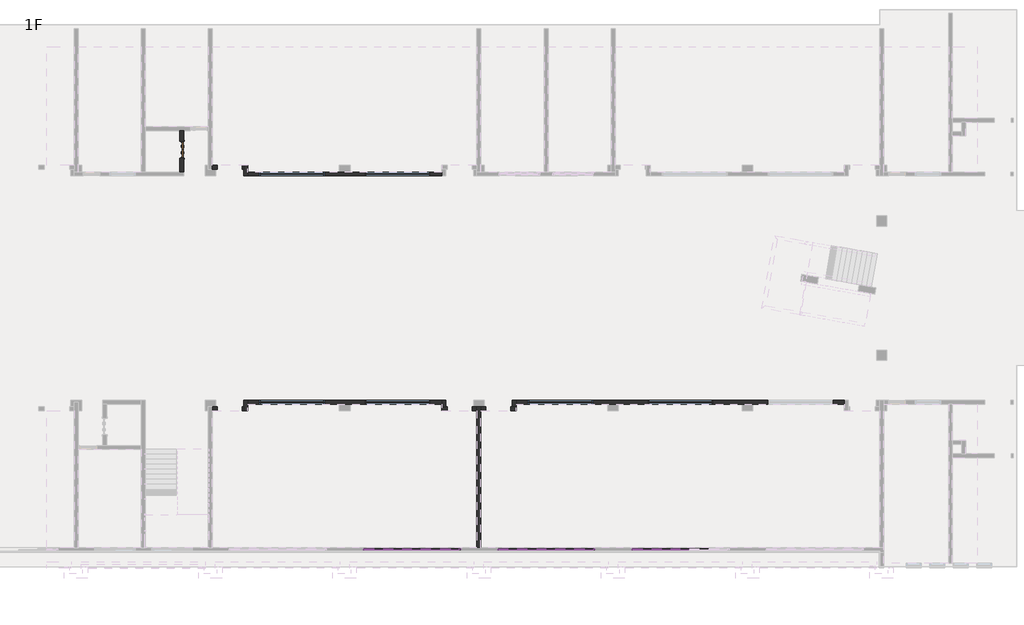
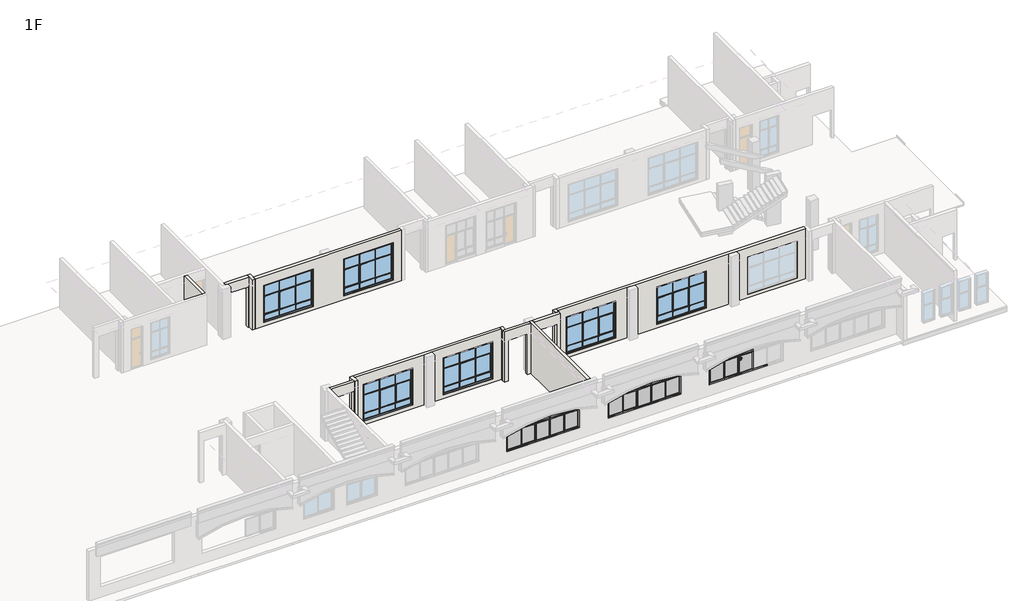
# One storey, part 3 of 16: 67 members, 21 plates, 13 walls, 6 windows, 1 door.
"""IFC4 building model written with IfcOpenShell, lengths in millimetres."""

from ifc_helpers import new_model, si_unit, frame, origin, place, context, project, spatial, polyline, outline, extrude, faceted_brep, transform, mapped, element, save
from components import door_7422e6be, member_7564be38, member_1f4d75dd, member_0b7842ad, member_163d5e45, member_ffafc35e, member_2b011958, member_9c26cac3, member_6c42befd, member_a374fdad, plate_f4dba16c, plate_1cc4df2b, plate_4fa5932a, plate_00f9c624, plate_18a10205, plate_942ffe46, lc5_lc5_223d64ff, lc5_lc5_9ec79463

model = new_model("IFC4")

# Units and contexts
model_context = context("Model", 3, world=origin())
ifc_project = project(units=[si_unit("LENGTHUNIT", "METRE", prefix="MILLI")], contexts=[model_context])

# Site, building, storey
site = spatial("IfcSite", under=ifc_project)
building = spatial("IfcBuilding", under=site)
storey = spatial("IfcBuildingStorey", under=building, Name="1F", Elevation=0.0)

# Door
placement = place(None, origin())
door_shape = door_7422e6be(model_context)
element("IfcDoor", 1, ObjectType="FM(丙）1 : FM(丙）1", at=placement, inside=storey, context=model_context, shape_type="MappedRepresentation", body=[
    mapped(door_shape, transform((33300.0000031, 24849.6954632, 0.0), x_axis=(0.0, 1.0, 0.0), y_axis=(-1.0, 0.0, 0.0), z_axis=(0.0, 0.0, 1.0))),
])

# Members
member_shape = member_7564be38(model_context)
element("IfcMember", 2, ObjectType="矩形竖梃 : 教学楼 – 矩形竖梃 – 100x150mm", at=placement, inside=storey, context=model_context, shape_type="MappedRepresentation", body=[
    mapped(member_shape, transform((49909.9999978, 1000.0, 3400.0), x_axis=(0.0, 0.0, 1.0), y_axis=(0.0, -1.0, 0.0), z_axis=(1.0, 0.0, 0.0))),
])
element("IfcMember", 3, ObjectType="矩形竖梃 : 教学楼 – 矩形竖梃 – 100x150mm", at=placement, inside=storey, context=model_context, shape_type="MappedRepresentation", body=[
    mapped(member_shape, transform((57909.9999985, 1000.0, 3400.0), x_axis=(0.0, 0.0, 1.0), y_axis=(0.0, -1.0, 0.0), z_axis=(1.0, 0.0, 0.0))),
])
element("IfcMember", 4, ObjectType="矩形竖梃 : 教学楼 – 矩形竖梃 – 100x150mm", at=placement, inside=storey, context=model_context, shape_type="MappedRepresentation", body=[
    mapped(member_shape, transform((44109.9999978, 1000.0, 900.0), x_axis=(0.0, 0.0, -1.0), y_axis=(0.0, -1.0, 0.0), z_axis=(-1.0, 0.0, 0.0))),
])
element("IfcMember", 5, ObjectType="矩形竖梃 : 教学楼 – 矩形竖梃 – 100x150mm", at=placement, inside=storey, context=model_context, shape_type="MappedRepresentation", body=[
    mapped(member_shape, transform((52109.9999985, 1000.0, 900.0), x_axis=(0.0, 0.0, -1.0), y_axis=(0.0, -1.0, 0.0), z_axis=(-1.0, 0.0, 0.0))),
])
element("IfcMember", 6, ObjectType="矩形竖梃 : 教学楼 – 矩形竖梃 – 100x150mm", at=placement, inside=storey, context=model_context, shape_type="MappedRepresentation", body=[
    mapped(member_shape, transform((60109.9999985, 1000.0, 900.0), x_axis=(0.0, 0.0, -1.0), y_axis=(0.0, -1.0, 0.0), z_axis=(-1.0, 0.0, 0.0))),
])
member_2_shape = member_1f4d75dd(model_context)
element("IfcMember", 7, ObjectType="矩形竖梃 : 教学楼 – 矩形竖梃 – 50x150mm", at=placement, inside=storey, context=model_context, shape_type="MappedRepresentation", body=[
    mapped(member_2_shape, transform((46459.9999978, 1000.0, 1000.0), x_axis=(1.0, 0.0, 0.0), y_axis=(0.0, -1.0, 0.0), z_axis=(0.0, 0.0, -1.0))),
])
element("IfcMember", 8, ObjectType="矩形竖梃 : 教学楼 – 矩形竖梃 – 50x150mm", at=placement, inside=storey, context=model_context, shape_type="MappedRepresentation", body=[
    mapped(member_2_shape, transform((47559.9999978, 1000.0, 1000.0), x_axis=(1.0, 0.0, 0.0), y_axis=(0.0, -1.0, 0.0), z_axis=(0.0, 0.0, -1.0))),
])
element("IfcMember", 9, ObjectType="矩形竖梃 : 教学楼 – 矩形竖梃 – 50x150mm", at=placement, inside=storey, context=model_context, shape_type="MappedRepresentation", body=[
    mapped(member_2_shape, transform((54459.9999985, 1000.0, 1000.0), x_axis=(1.0, 0.0, 0.0), y_axis=(0.0, -1.0, 0.0), z_axis=(0.0, 0.0, -1.0))),
])
element("IfcMember", 10, ObjectType="矩形竖梃 : 教学楼 – 矩形竖梃 – 50x150mm", at=placement, inside=storey, context=model_context, shape_type="MappedRepresentation", body=[
    mapped(member_2_shape, transform((55559.9999985, 1000.0, 1000.0), x_axis=(1.0, 0.0, 0.0), y_axis=(0.0, -1.0, 0.0), z_axis=(0.0, 0.0, -1.0))),
])
element("IfcMember", 11, ObjectType="矩形竖梃 : 教学楼 – 矩形竖梃 – 50x150mm", at=placement, inside=storey, context=model_context, shape_type="MappedRepresentation", body=[
    mapped(member_2_shape, transform((62459.9999985, 1000.0, 1000.0), x_axis=(1.0, 0.0, 0.0), y_axis=(0.0, -1.0, 0.0), z_axis=(0.0, 0.0, -1.0))),
])
element("IfcMember", 12, ObjectType="矩形竖梃 : 教学楼 – 矩形竖梃 – 50x150mm", at=placement, inside=storey, context=model_context, shape_type="MappedRepresentation", body=[
    mapped(member_2_shape, transform((63559.9999985, 1000.0, 1000.0), x_axis=(1.0, 0.0, 0.0), y_axis=(0.0, -1.0, 0.0), z_axis=(0.0, 0.0, -1.0))),
])
member_3_shape = member_0b7842ad(model_context)
element("IfcMember", 13, ObjectType="矩形竖梃 : 教学楼 – 矩形竖梃 – 50x150mm", at=placement, inside=storey, context=model_context, shape_type="MappedRepresentation", body=[
    mapped(member_3_shape, transform((45309.9999978, 1000.0, 2450.0), x_axis=(0.0, 0.0, 1.0), y_axis=(0.0, -1.0, 0.0), z_axis=(1.0, 0.0, 0.0))),
])
element("IfcMember", 14, ObjectType="矩形竖梃 : 教学楼 – 矩形竖梃 – 50x150mm", at=placement, inside=storey, context=model_context, shape_type="MappedRepresentation", body=[
    mapped(member_3_shape, transform((53309.9999985, 1000.0, 2450.0), x_axis=(0.0, 0.0, 1.0), y_axis=(0.0, -1.0, 0.0), z_axis=(1.0, 0.0, 0.0))),
])
element("IfcMember", 15, ObjectType="矩形竖梃 : 教学楼 – 矩形竖梃 – 50x150mm", at=placement, inside=storey, context=model_context, shape_type="MappedRepresentation", body=[
    mapped(member_3_shape, transform((61309.9999985, 1000.0, 2450.0), x_axis=(0.0, 0.0, 1.0), y_axis=(0.0, -1.0, 0.0), z_axis=(1.0, 0.0, 0.0))),
])
member_4_shape = member_163d5e45(model_context)
element("IfcMember", 16, ObjectType="矩形竖梃 : 教学楼 – 矩形竖梃 – 50x150mm", at=placement, inside=storey, context=model_context, shape_type="MappedRepresentation", body=[
    mapped(member_4_shape, transform((46459.9999978, 1000.0, 2450.0), x_axis=(0.0, 0.0, 1.0), y_axis=(0.0, -1.0, 0.0), z_axis=(1.0, 0.0, 0.0))),
])
element("IfcMember", 17, ObjectType="矩形竖梃 : 教学楼 – 矩形竖梃 – 50x150mm", at=placement, inside=storey, context=model_context, shape_type="MappedRepresentation", body=[
    mapped(member_4_shape, transform((48709.9999978, 1000.0, 2450.0), x_axis=(0.0, 0.0, 1.0), y_axis=(0.0, -1.0, 0.0), z_axis=(1.0, 0.0, 0.0))),
])
element("IfcMember", 18, ObjectType="矩形竖梃 : 教学楼 – 矩形竖梃 – 50x150mm", at=placement, inside=storey, context=model_context, shape_type="MappedRepresentation", body=[
    mapped(member_4_shape, transform((54459.9999985, 1000.0, 2450.0), x_axis=(0.0, 0.0, 1.0), y_axis=(0.0, -1.0, 0.0), z_axis=(1.0, 0.0, 0.0))),
])
element("IfcMember", 19, ObjectType="矩形竖梃 : 教学楼 – 矩形竖梃 – 50x150mm", at=placement, inside=storey, context=model_context, shape_type="MappedRepresentation", body=[
    mapped(member_4_shape, transform((56709.9999985, 1000.0, 2450.0), x_axis=(0.0, 0.0, 1.0), y_axis=(0.0, -1.0, 0.0), z_axis=(1.0, 0.0, 0.0))),
])
element("IfcMember", 20, ObjectType="矩形竖梃 : 教学楼 – 矩形竖梃 – 50x150mm", at=placement, inside=storey, context=model_context, shape_type="MappedRepresentation", body=[
    mapped(member_4_shape, transform((62459.9999985, 1000.0, 2450.0), x_axis=(0.0, 0.0, 1.0), y_axis=(0.0, -1.0, 0.0), z_axis=(1.0, 0.0, 0.0))),
])
element("IfcMember", 21, ObjectType="矩形竖梃 : 教学楼 – 矩形竖梃 – 50x150mm", at=placement, inside=storey, context=model_context, shape_type="MappedRepresentation", body=[
    mapped(member_3_shape, transform((47559.9999978, 1000.0, 2450.0), x_axis=(0.0, 0.0, 1.0), y_axis=(0.0, -1.0, 0.0), z_axis=(1.0, 0.0, 0.0))),
])
element("IfcMember", 22, ObjectType="矩形竖梃 : 教学楼 – 矩形竖梃 – 50x150mm", at=placement, inside=storey, context=model_context, shape_type="MappedRepresentation", body=[
    mapped(member_3_shape, transform((55559.9999985, 1000.0, 2450.0), x_axis=(0.0, 0.0, 1.0), y_axis=(0.0, -1.0, 0.0), z_axis=(1.0, 0.0, 0.0))),
])
element("IfcMember", 23, ObjectType="矩形竖梃 : 教学楼 – 矩形竖梃 – 50x150mm", at=placement, inside=storey, context=model_context, shape_type="MappedRepresentation", body=[
    mapped(member_3_shape, transform((63559.9999985, 1000.0, 2450.0), x_axis=(0.0, 0.0, 1.0), y_axis=(0.0, -1.0, 0.0), z_axis=(1.0, 0.0, 0.0))),
])
element("IfcMember", 24, ObjectType="矩形竖梃 : 教学楼 – 矩形竖梃 – 50x150mm", at=placement, inside=storey, context=model_context, shape_type="MappedRepresentation", body=[
    mapped(member_3_shape, transform((49809.9999978, 1000.0, 2450.0), x_axis=(0.0, 0.0, 1.0), y_axis=(0.0, -1.0, 0.0), z_axis=(1.0, 0.0, 0.0))),
])
element("IfcMember", 25, ObjectType="矩形竖梃 : 教学楼 – 矩形竖梃 – 50x150mm", at=placement, inside=storey, context=model_context, shape_type="MappedRepresentation", body=[
    mapped(member_3_shape, transform((57809.9999985, 1000.0, 2450.0), x_axis=(0.0, 0.0, 1.0), y_axis=(0.0, -1.0, 0.0), z_axis=(1.0, 0.0, 0.0))),
])
member_5_shape = member_ffafc35e(model_context)
element("IfcMember", 26, ObjectType="矩形竖梃 : 教学楼 – 矩形竖梃 – 100x150mm", at=placement, inside=storey, context=model_context, shape_type="MappedRepresentation", body=[
    mapped(member_5_shape, transform((45309.9999978, 1000.0, 900.0), x_axis=(0.0, 0.0, -1.0), y_axis=(0.0, -1.0, 0.0), z_axis=(-1.0, 0.0, 0.0))),
])
element("IfcMember", 27, ObjectType="矩形竖梃 : 教学楼 – 矩形竖梃 – 100x150mm", at=placement, inside=storey, context=model_context, shape_type="MappedRepresentation", body=[
    mapped(member_5_shape, transform((53309.9999985, 1000.0, 900.0), x_axis=(0.0, 0.0, -1.0), y_axis=(0.0, -1.0, 0.0), z_axis=(-1.0, 0.0, 0.0))),
])
element("IfcMember", 28, ObjectType="矩形竖梃 : 教学楼 – 矩形竖梃 – 100x150mm", at=placement, inside=storey, context=model_context, shape_type="MappedRepresentation", body=[
    mapped(member_5_shape, transform((61309.9999985, 1000.0, 900.0), x_axis=(0.0, 0.0, -1.0), y_axis=(0.0, -1.0, 0.0), z_axis=(-1.0, 0.0, 0.0))),
])
member_6_shape = member_2b011958(model_context)
element("IfcMember", 29, ObjectType="矩形竖梃 : 教学楼 – 矩形竖梃 – 100x150mm", at=placement, inside=storey, context=model_context, shape_type="MappedRepresentation", body=[
    mapped(member_6_shape, transform((46459.9999978, 1000.0, 900.0), x_axis=(0.0, 0.0, -1.0), y_axis=(0.0, -1.0, 0.0), z_axis=(-1.0, 0.0, 0.0))),
])
element("IfcMember", 30, ObjectType="矩形竖梃 : 教学楼 – 矩形竖梃 – 100x150mm", at=placement, inside=storey, context=model_context, shape_type="MappedRepresentation", body=[
    mapped(member_6_shape, transform((54459.9999985, 1000.0, 900.0), x_axis=(0.0, 0.0, -1.0), y_axis=(0.0, -1.0, 0.0), z_axis=(-1.0, 0.0, 0.0))),
])
element("IfcMember", 31, ObjectType="矩形竖梃 : 教学楼 – 矩形竖梃 – 100x150mm", at=placement, inside=storey, context=model_context, shape_type="MappedRepresentation", body=[
    mapped(member_6_shape, transform((62459.9999985, 1000.0, 900.0), x_axis=(0.0, 0.0, -1.0), y_axis=(0.0, -1.0, 0.0), z_axis=(-1.0, 0.0, 0.0))),
])
element("IfcMember", 32, ObjectType="矩形竖梃 : 教学楼 – 矩形竖梃 – 100x150mm", at=placement, inside=storey, context=model_context, shape_type="MappedRepresentation", body=[
    mapped(member_5_shape, transform((47559.9999978, 1000.0, 900.0), x_axis=(0.0, 0.0, -1.0), y_axis=(0.0, -1.0, 0.0), z_axis=(-1.0, 0.0, 0.0))),
])
element("IfcMember", 33, ObjectType="矩形竖梃 : 教学楼 – 矩形竖梃 – 100x150mm", at=placement, inside=storey, context=model_context, shape_type="MappedRepresentation", body=[
    mapped(member_5_shape, transform((55559.9999985, 1000.0, 900.0), x_axis=(0.0, 0.0, -1.0), y_axis=(0.0, -1.0, 0.0), z_axis=(-1.0, 0.0, 0.0))),
])
element("IfcMember", 34, ObjectType="矩形竖梃 : 教学楼 – 矩形竖梃 – 100x150mm", at=placement, inside=storey, context=model_context, shape_type="MappedRepresentation", body=[
    mapped(member_5_shape, transform((63559.9999985, 1000.0, 900.0), x_axis=(0.0, 0.0, -1.0), y_axis=(0.0, -1.0, 0.0), z_axis=(-1.0, 0.0, 0.0))),
])
element("IfcMember", 35, ObjectType="矩形竖梃 : 教学楼 – 矩形竖梃 – 100x150mm", at=placement, inside=storey, context=model_context, shape_type="MappedRepresentation", body=[
    mapped(member_shape, transform((48709.9999978, 1000.0, 900.0), x_axis=(0.0, 0.0, -1.0), y_axis=(0.0, -1.0, 0.0), z_axis=(-1.0, 0.0, 0.0))),
])
element("IfcMember", 36, ObjectType="矩形竖梃 : 教学楼 – 矩形竖梃 – 100x150mm", at=placement, inside=storey, context=model_context, shape_type="MappedRepresentation", body=[
    mapped(member_shape, transform((56709.9999985, 1000.0, 900.0), x_axis=(0.0, 0.0, -1.0), y_axis=(0.0, -1.0, 0.0), z_axis=(-1.0, 0.0, 0.0))),
])
element("IfcMember", 37, ObjectType="矩形竖梃 : 教学楼 – 矩形竖梃 – 100x150mm", at=placement, inside=storey, context=model_context, shape_type="MappedRepresentation", body=[
    mapped(member_shape, transform((45309.9999978, 1000.0, 3400.0), x_axis=(0.0, 0.0, 1.0), y_axis=(0.0, -1.0, 0.0), z_axis=(1.0, 0.0, 0.0))),
])
element("IfcMember", 38, ObjectType="矩形竖梃 : 教学楼 – 矩形竖梃 – 100x150mm", at=placement, inside=storey, context=model_context, shape_type="MappedRepresentation", body=[
    mapped(member_shape, transform((53309.9999985, 1000.0, 3400.0), x_axis=(0.0, 0.0, 1.0), y_axis=(0.0, -1.0, 0.0), z_axis=(1.0, 0.0, 0.0))),
])
element("IfcMember", 39, ObjectType="矩形竖梃 : 教学楼 – 矩形竖梃 – 100x150mm", at=placement, inside=storey, context=model_context, shape_type="MappedRepresentation", body=[
    mapped(member_shape, transform((61309.9999985, 1000.0, 3400.0), x_axis=(0.0, 0.0, 1.0), y_axis=(0.0, -1.0, 0.0), z_axis=(1.0, 0.0, 0.0))),
])
element("IfcMember", 40, ObjectType="矩形竖梃 : 教学楼 – 矩形竖梃 – 100x150mm", at=placement, inside=storey, context=model_context, shape_type="MappedRepresentation", body=[
    mapped(member_5_shape, transform((46459.9999978, 1000.0, 3400.0), x_axis=(0.0, 0.0, 1.0), y_axis=(0.0, -1.0, 0.0), z_axis=(1.0, 0.0, 0.0))),
])
element("IfcMember", 41, ObjectType="矩形竖梃 : 教学楼 – 矩形竖梃 – 100x150mm", at=placement, inside=storey, context=model_context, shape_type="MappedRepresentation", body=[
    mapped(member_5_shape, transform((48709.9999978, 1000.0, 3400.0), x_axis=(0.0, 0.0, 1.0), y_axis=(0.0, -1.0, 0.0), z_axis=(1.0, 0.0, 0.0))),
])
element("IfcMember", 42, ObjectType="矩形竖梃 : 教学楼 – 矩形竖梃 – 100x150mm", at=placement, inside=storey, context=model_context, shape_type="MappedRepresentation", body=[
    mapped(member_5_shape, transform((54459.9999985, 1000.0, 3400.0), x_axis=(0.0, 0.0, 1.0), y_axis=(0.0, -1.0, 0.0), z_axis=(1.0, 0.0, 0.0))),
])
element("IfcMember", 43, ObjectType="矩形竖梃 : 教学楼 – 矩形竖梃 – 100x150mm", at=placement, inside=storey, context=model_context, shape_type="MappedRepresentation", body=[
    mapped(member_5_shape, transform((56709.9999985, 1000.0, 3400.0), x_axis=(0.0, 0.0, 1.0), y_axis=(0.0, -1.0, 0.0), z_axis=(1.0, 0.0, 0.0))),
])
element("IfcMember", 44, ObjectType="矩形竖梃 : 教学楼 – 矩形竖梃 – 100x150mm", at=placement, inside=storey, context=model_context, shape_type="MappedRepresentation", body=[
    mapped(member_5_shape, transform((62459.9999985, 1000.0, 3400.0), x_axis=(0.0, 0.0, 1.0), y_axis=(0.0, -1.0, 0.0), z_axis=(1.0, 0.0, 0.0))),
])
element("IfcMember", 45, ObjectType="矩形竖梃 : 教学楼 – 矩形竖梃 – 100x150mm", at=placement, inside=storey, context=model_context, shape_type="MappedRepresentation", body=[
    mapped(member_6_shape, transform((47559.9999978, 1000.0, 3400.0), x_axis=(0.0, 0.0, 1.0), y_axis=(0.0, -1.0, 0.0), z_axis=(1.0, 0.0, 0.0))),
])
element("IfcMember", 46, ObjectType="矩形竖梃 : 教学楼 – 矩形竖梃 – 100x150mm", at=placement, inside=storey, context=model_context, shape_type="MappedRepresentation", body=[
    mapped(member_6_shape, transform((55559.9999985, 1000.0, 3400.0), x_axis=(0.0, 0.0, 1.0), y_axis=(0.0, -1.0, 0.0), z_axis=(1.0, 0.0, 0.0))),
])
element("IfcMember", 47, ObjectType="矩形竖梃 : 教学楼 – 矩形竖梃 – 100x150mm", at=placement, inside=storey, context=model_context, shape_type="MappedRepresentation", body=[
    mapped(member_6_shape, transform((63559.9999985, 1000.0, 3400.0), x_axis=(0.0, 0.0, 1.0), y_axis=(0.0, -1.0, 0.0), z_axis=(1.0, 0.0, 0.0))),
])
member_7_shape = member_9c26cac3(model_context)
element("IfcMember", 48, ObjectType="矩形竖梃 : 教学楼 – 矩形竖梃 – 50x150mm", at=placement, inside=storey, context=model_context, shape_type="MappedRepresentation", body=[
    mapped(member_7_shape, transform((45309.9999978, 1000.0, 2475.0), x_axis=(1.0, 0.0, 0.0), y_axis=(0.0, -1.0, 0.0), z_axis=(0.0, 0.0, -1.0))),
])
element("IfcMember", 49, ObjectType="矩形竖梃 : 教学楼 – 矩形竖梃 – 50x150mm", at=placement, inside=storey, context=model_context, shape_type="MappedRepresentation", body=[
    mapped(member_7_shape, transform((46459.9999978, 1000.0, 2475.0), x_axis=(1.0, 0.0, 0.0), y_axis=(0.0, -1.0, 0.0), z_axis=(0.0, 0.0, -1.0))),
])
element("IfcMember", 50, ObjectType="矩形竖梃 : 教学楼 – 矩形竖梃 – 50x150mm", at=placement, inside=storey, context=model_context, shape_type="MappedRepresentation", body=[
    mapped(member_7_shape, transform((47559.9999978, 1000.0, 2475.0), x_axis=(1.0, 0.0, 0.0), y_axis=(0.0, -1.0, 0.0), z_axis=(0.0, 0.0, -1.0))),
])
element("IfcMember", 51, ObjectType="矩形竖梃 : 教学楼 – 矩形竖梃 – 50x150mm", at=placement, inside=storey, context=model_context, shape_type="MappedRepresentation", body=[
    mapped(member_7_shape, transform((48709.9999978, 1000.0, 2475.0), x_axis=(1.0, 0.0, 0.0), y_axis=(0.0, -1.0, 0.0), z_axis=(0.0, 0.0, -1.0))),
])
element("IfcMember", 52, ObjectType="矩形竖梃 : 教学楼 – 矩形竖梃 – 50x150mm", at=placement, inside=storey, context=model_context, shape_type="MappedRepresentation", body=[
    mapped(member_7_shape, transform((53309.9999985, 1000.0, 2475.0), x_axis=(1.0, 0.0, 0.0), y_axis=(0.0, -1.0, 0.0), z_axis=(0.0, 0.0, -1.0))),
])
element("IfcMember", 53, ObjectType="矩形竖梃 : 教学楼 – 矩形竖梃 – 50x150mm", at=placement, inside=storey, context=model_context, shape_type="MappedRepresentation", body=[
    mapped(member_7_shape, transform((54459.9999985, 1000.0, 2475.0), x_axis=(1.0, 0.0, 0.0), y_axis=(0.0, -1.0, 0.0), z_axis=(0.0, 0.0, -1.0))),
])
element("IfcMember", 54, ObjectType="矩形竖梃 : 教学楼 – 矩形竖梃 – 50x150mm", at=placement, inside=storey, context=model_context, shape_type="MappedRepresentation", body=[
    mapped(member_7_shape, transform((55559.9999985, 1000.0, 2475.0), x_axis=(1.0, 0.0, 0.0), y_axis=(0.0, -1.0, 0.0), z_axis=(0.0, 0.0, -1.0))),
])
element("IfcMember", 55, ObjectType="矩形竖梃 : 教学楼 – 矩形竖梃 – 50x150mm", at=placement, inside=storey, context=model_context, shape_type="MappedRepresentation", body=[
    mapped(member_7_shape, transform((56709.9999985, 1000.0, 2475.0), x_axis=(1.0, 0.0, 0.0), y_axis=(0.0, -1.0, 0.0), z_axis=(0.0, 0.0, -1.0))),
])
element("IfcMember", 56, ObjectType="矩形竖梃 : 教学楼 – 矩形竖梃 – 50x150mm", at=placement, inside=storey, context=model_context, shape_type="MappedRepresentation", body=[
    mapped(member_7_shape, transform((61309.9999985, 1000.0, 2475.0), x_axis=(1.0, 0.0, 0.0), y_axis=(0.0, -1.0, 0.0), z_axis=(0.0, 0.0, -1.0))),
])
element("IfcMember", 57, ObjectType="矩形竖梃 : 教学楼 – 矩形竖梃 – 50x150mm", at=placement, inside=storey, context=model_context, shape_type="MappedRepresentation", body=[
    mapped(member_7_shape, transform((62459.9999985, 1000.0, 2475.0), x_axis=(1.0, 0.0, 0.0), y_axis=(0.0, -1.0, 0.0), z_axis=(0.0, 0.0, -1.0))),
])
element("IfcMember", 58, ObjectType="矩形竖梃 : 教学楼 – 矩形竖梃 – 50x150mm", at=placement, inside=storey, context=model_context, shape_type="MappedRepresentation", body=[
    mapped(member_7_shape, transform((63559.9999985, 1000.0, 2475.0), x_axis=(1.0, 0.0, 0.0), y_axis=(0.0, -1.0, 0.0), z_axis=(0.0, 0.0, -1.0))),
])
member_8_shape = member_6c42befd(model_context)
element("IfcMember", 59, ObjectType="矩形竖梃 : 教学楼 – 矩形竖梃 – 100x150mm", at=placement, inside=storey, context=model_context, shape_type="MappedRepresentation", body=[
    mapped(member_8_shape, transform((44109.9999978, 1000.0, 3300.0), x_axis=(-1.0, 0.0, 0.0), y_axis=(0.0, -1.0, 0.0), z_axis=(0.0, 0.0, 1.0))),
])
element("IfcMember", 60, ObjectType="矩形竖梃 : 教学楼 – 矩形竖梃 – 100x150mm", at=placement, inside=storey, context=model_context, shape_type="MappedRepresentation", body=[
    mapped(member_8_shape, transform((52109.9999985, 1000.0, 3300.0), x_axis=(-1.0, 0.0, 0.0), y_axis=(0.0, -1.0, 0.0), z_axis=(0.0, 0.0, 1.0))),
])
element("IfcMember", 61, ObjectType="矩形竖梃 : 教学楼 – 矩形竖梃 – 100x150mm", at=placement, inside=storey, context=model_context, shape_type="MappedRepresentation", body=[
    mapped(member_8_shape, transform((60109.9999985, 1000.0, 3300.0), x_axis=(-1.0, 0.0, 0.0), y_axis=(0.0, -1.0, 0.0), z_axis=(0.0, 0.0, 1.0))),
])
member_9_shape = member_a374fdad(model_context)
element("IfcMember", 62, ObjectType="矩形竖梃 : 教学楼 – 矩形竖梃 – 100x150mm", at=placement, inside=storey, context=model_context, shape_type="MappedRepresentation", body=[
    mapped(member_9_shape, transform((49909.9999978, 1000.0, 1000.0), x_axis=(1.0, 0.0, 0.0), y_axis=(0.0, -1.0, 0.0), z_axis=(0.0, 0.0, -1.0))),
])
element("IfcMember", 63, ObjectType="矩形竖梃 : 教学楼 – 矩形竖梃 – 100x150mm", at=placement, inside=storey, context=model_context, shape_type="MappedRepresentation", body=[
    mapped(member_9_shape, transform((57909.9999985, 1000.0, 1000.0), x_axis=(1.0, 0.0, 0.0), y_axis=(0.0, -1.0, 0.0), z_axis=(0.0, 0.0, -1.0))),
])
element("IfcMember", 64, ObjectType="矩形竖梃 : 教学楼 – 矩形竖梃 – 100x150mm", at=placement, inside=storey, context=model_context, shape_type="MappedRepresentation", body=[
    mapped(member_8_shape, transform((49909.9999978, 1000.0, 2450.0), x_axis=(1.0, 0.0, 0.0), y_axis=(0.0, -1.0, 0.0), z_axis=(0.0, 0.0, -1.0))),
])
element("IfcMember", 65, ObjectType="矩形竖梃 : 教学楼 – 矩形竖梃 – 100x150mm", at=placement, inside=storey, context=model_context, shape_type="MappedRepresentation", body=[
    mapped(member_8_shape, transform((57909.9999985, 1000.0, 2450.0), x_axis=(1.0, 0.0, 0.0), y_axis=(0.0, -1.0, 0.0), z_axis=(0.0, 0.0, -1.0))),
])
element("IfcMember", 66, ObjectType="矩形竖梃 : 教学楼 – 矩形竖梃 – 100x150mm", at=placement, inside=storey, context=model_context, shape_type="MappedRepresentation", body=[
    mapped(member_9_shape, transform((44109.9999978, 1000.0, 2450.0), x_axis=(-1.0, 0.0, 0.0), y_axis=(0.0, -1.0, 0.0), z_axis=(0.0, 0.0, 1.0))),
])
element("IfcMember", 67, ObjectType="矩形竖梃 : 教学楼 – 矩形竖梃 – 100x150mm", at=placement, inside=storey, context=model_context, shape_type="MappedRepresentation", body=[
    mapped(member_9_shape, transform((52109.9999985, 1000.0, 2450.0), x_axis=(-1.0, 0.0, 0.0), y_axis=(0.0, -1.0, 0.0), z_axis=(0.0, 0.0, 1.0))),
])
element("IfcMember", 68, ObjectType="矩形竖梃 : 教学楼 – 矩形竖梃 – 100x150mm", at=placement, inside=storey, context=model_context, shape_type="MappedRepresentation", body=[
    mapped(member_9_shape, transform((60109.9999985, 1000.0, 2450.0), x_axis=(-1.0, 0.0, 0.0), y_axis=(0.0, -1.0, 0.0), z_axis=(0.0, 0.0, 1.0))),
])

# Plates
plate_shape = plate_f4dba16c(model_context)
element("IfcPlate", 69, ObjectType="系统嵌板 : 玻璃", at=placement, inside=storey, context=model_context, shape_type="MappedRepresentation", body=[
    mapped(plate_shape, transform((47009.9999978, 1000.0, 1000.0), x_axis=(1.0, 0.0, 0.0), y_axis=(0.0, 1.0, 0.0), z_axis=(0.0, 0.0, 1.0))),
])
element("IfcPlate", 70, ObjectType="系统嵌板 : 玻璃", at=placement, inside=storey, context=model_context, shape_type="MappedRepresentation", body=[
    mapped(plate_shape, transform((55009.9999985, 1000.0, 1000.0), x_axis=(1.0, 0.0, 0.0), y_axis=(0.0, 1.0, 0.0), z_axis=(0.0, 0.0, 1.0))),
])
plate_2_shape = plate_1cc4df2b(model_context)
element("IfcPlate", 71, ObjectType="系统嵌板 : 玻璃", at=placement, inside=storey, context=model_context, shape_type="MappedRepresentation", body=[
    mapped(plate_2_shape, transform((44747.4999978, 1000.0, 2475.0), x_axis=(1.0, 0.0, 0.0), y_axis=(0.0, 1.0, 0.0), z_axis=(0.0, 0.0, 1.0))),
])
element("IfcPlate", 72, ObjectType="系统嵌板 : 玻璃", at=placement, inside=storey, context=model_context, shape_type="MappedRepresentation", body=[
    mapped(plate_2_shape, transform((49272.4999978, 1000.0, 2475.0), x_axis=(1.0, 0.0, 0.0), y_axis=(0.0, 1.0, 0.0), z_axis=(0.0, 0.0, 1.0))),
])
element("IfcPlate", 73, ObjectType="系统嵌板 : 玻璃", at=placement, inside=storey, context=model_context, shape_type="MappedRepresentation", body=[
    mapped(plate_2_shape, transform((52747.4999985, 1000.0, 2475.0), x_axis=(1.0, 0.0, 0.0), y_axis=(0.0, 1.0, 0.0), z_axis=(0.0, 0.0, 1.0))),
])
element("IfcPlate", 74, ObjectType="系统嵌板 : 玻璃", at=placement, inside=storey, context=model_context, shape_type="MappedRepresentation", body=[
    mapped(plate_2_shape, transform((57272.4999985, 1000.0, 2475.0), x_axis=(1.0, 0.0, 0.0), y_axis=(0.0, 1.0, 0.0), z_axis=(0.0, 0.0, 1.0))),
])
element("IfcPlate", 75, ObjectType="系统嵌板 : 玻璃", at=placement, inside=storey, context=model_context, shape_type="MappedRepresentation", body=[
    mapped(plate_2_shape, transform((60747.4999985, 1000.0, 2475.0), x_axis=(1.0, 0.0, 0.0), y_axis=(0.0, 1.0, 0.0), z_axis=(0.0, 0.0, 1.0))),
])
plate_3_shape = plate_4fa5932a(model_context)
element("IfcPlate", 76, ObjectType="系统嵌板 : 玻璃", at=placement, inside=storey, context=model_context, shape_type="MappedRepresentation", body=[
    mapped(plate_3_shape, transform((45884.9999978, 1000.0, 2475.0), x_axis=(1.0, 0.0, 0.0), y_axis=(0.0, 1.0, 0.0), z_axis=(0.0, 0.0, 1.0))),
])
element("IfcPlate", 77, ObjectType="系统嵌板 : 玻璃", at=placement, inside=storey, context=model_context, shape_type="MappedRepresentation", body=[
    mapped(plate_3_shape, transform((48134.9999978, 1000.0, 2475.0), x_axis=(1.0, 0.0, 0.0), y_axis=(0.0, 1.0, 0.0), z_axis=(0.0, 0.0, 1.0))),
])
element("IfcPlate", 78, ObjectType="系统嵌板 : 玻璃", at=placement, inside=storey, context=model_context, shape_type="MappedRepresentation", body=[
    mapped(plate_3_shape, transform((53884.9999985, 1000.0, 2475.0), x_axis=(1.0, 0.0, 0.0), y_axis=(0.0, 1.0, 0.0), z_axis=(0.0, 0.0, 1.0))),
])
element("IfcPlate", 79, ObjectType="系统嵌板 : 玻璃", at=placement, inside=storey, context=model_context, shape_type="MappedRepresentation", body=[
    mapped(plate_3_shape, transform((56134.9999985, 1000.0, 2475.0), x_axis=(1.0, 0.0, 0.0), y_axis=(0.0, 1.0, 0.0), z_axis=(0.0, 0.0, 1.0))),
])
element("IfcPlate", 80, ObjectType="系统嵌板 : 玻璃", at=placement, inside=storey, context=model_context, shape_type="MappedRepresentation", body=[
    mapped(plate_3_shape, transform((61884.9999985, 1000.0, 2475.0), x_axis=(1.0, 0.0, 0.0), y_axis=(0.0, 1.0, 0.0), z_axis=(0.0, 0.0, 1.0))),
])
plate_4_shape = plate_00f9c624(model_context)
element("IfcPlate", 81, ObjectType="系统嵌板 : 玻璃", at=placement, inside=storey, context=model_context, shape_type="MappedRepresentation", body=[
    mapped(plate_4_shape, transform((47009.9999978, 1000.0, 2475.0), x_axis=(1.0, 0.0, 0.0), y_axis=(0.0, 1.0, 0.0), z_axis=(0.0, 0.0, 1.0))),
])
element("IfcPlate", 82, ObjectType="系统嵌板 : 玻璃", at=placement, inside=storey, context=model_context, shape_type="MappedRepresentation", body=[
    mapped(plate_4_shape, transform((55009.9999985, 1000.0, 2475.0), x_axis=(1.0, 0.0, 0.0), y_axis=(0.0, 1.0, 0.0), z_axis=(0.0, 0.0, 1.0))),
])
element("IfcPlate", 83, ObjectType="系统嵌板 : 玻璃", at=placement, inside=storey, context=model_context, shape_type="MappedRepresentation", body=[
    mapped(plate_4_shape, transform((63009.9999985, 1000.0, 2475.0), x_axis=(1.0, 0.0, 0.0), y_axis=(0.0, 1.0, 0.0), z_axis=(0.0, 0.0, 1.0))),
])
plate_5_shape = plate_18a10205(model_context)
element("IfcPlate", 84, ObjectType="教学楼 - 窗嵌板：双扇推拉窗 : 教学楼 - 窗嵌板：双扇推拉窗", at=placement, inside=storey, context=model_context, shape_type="MappedRepresentation", body=[
    mapped(plate_5_shape, transform((45322.4999978, 1000.0, 1000.0), x_axis=(1.0, 0.0, 0.0), y_axis=(0.0, 1.0, 0.0), z_axis=(0.0, 0.0, 1.0))),
])
element("IfcPlate", 85, ObjectType="教学楼 - 窗嵌板：双扇推拉窗 : 教学楼 - 窗嵌板：双扇推拉窗", at=placement, inside=storey, context=model_context, shape_type="MappedRepresentation", body=[
    mapped(plate_5_shape, transform((53322.4999985, 1000.0, 1000.0), x_axis=(1.0, 0.0, 0.0), y_axis=(0.0, 1.0, 0.0), z_axis=(0.0, 0.0, 1.0))),
])
element("IfcPlate", 86, ObjectType="教学楼 - 窗嵌板：双扇推拉窗 : 教学楼 - 窗嵌板：双扇推拉窗", at=placement, inside=storey, context=model_context, shape_type="MappedRepresentation", body=[
    mapped(plate_5_shape, transform((61322.4999985, 1000.0, 1000.0), x_axis=(1.0, 0.0, 0.0), y_axis=(0.0, 1.0, 0.0), z_axis=(0.0, 0.0, 1.0))),
])
element("IfcPlate", 87, ObjectType="教学楼 - 窗嵌板：双扇推拉窗 : 教学楼 - 窗嵌板：双扇推拉窗", at=placement, inside=storey, context=model_context, shape_type="MappedRepresentation", body=[
    mapped(plate_5_shape, transform((48697.4999978, 1000.0, 1000.0), x_axis=(1.0, 0.0, 0.0), y_axis=(0.0, 1.0, 0.0), z_axis=(0.0, 0.0, 1.0))),
])
element("IfcPlate", 88, ObjectType="教学楼 - 窗嵌板：双扇推拉窗 : 教学楼 - 窗嵌板：双扇推拉窗", at=placement, inside=storey, context=model_context, shape_type="MappedRepresentation", body=[
    mapped(plate_5_shape, transform((56697.4999985, 1000.0, 1000.0), x_axis=(1.0, 0.0, 0.0), y_axis=(0.0, 1.0, 0.0), z_axis=(0.0, 0.0, 1.0))),
])
plate_6_shape = plate_942ffe46(model_context)
element("IfcPlate", 89, ObjectType="教学楼 - 窗嵌板：外贴消防通道 : 教学楼 - 窗嵌板：外贴消防通道", at=placement, inside=storey, context=model_context, shape_type="MappedRepresentation", body=[
    mapped(plate_6_shape, transform((63009.9999985, 1000.0, 1000.0), x_axis=(1.0, 0.0, 0.0), y_axis=(0.0, 1.0, 0.0), z_axis=(0.0, 0.0, 1.0))),
])

# Walls
element("IfcWall", 90, ObjectType="教学楼 – 涂料内墙 – 200mm", at=placement, inside=storey, context=model_context, shape_type="Brep", body=[
    faceted_brep([(48783.0000007, 23516.695464, 0.0), (43317.0, 23516.695464, 0.0), (42683.0, 23516.695464, 0.0), (37216.999999, 23516.695464, 0.0), (37216.999999, 23516.695464, 4200.0), (42683.0, 23516.695464, 4200.0), (43317.0, 23516.695464, 4200.0), (48783.0000007, 23516.695464, 4200.0), (44209.9999984, 23516.695464, 300.0), (48109.9999984, 23516.695464, 300.0), (48109.9999984, 23516.695464, 3400.0), (44209.9999984, 23516.695464, 3400.0), (37909.9999984, 23516.695464, 300.0), (41809.9999984, 23516.695464, 300.0), (41809.9999984, 23516.695464, 3400.0), (37909.9999984, 23516.695464, 3400.0), (48783.0000007, 23282.695464, 0.0), (48783.0000007, 23282.695464, 4200.0), (37216.999999, 23282.695464, 4200.0), (37216.999999, 23282.695464, 0.0), (44209.9999984, 23282.695464, 300.0), (44209.9999984, 23282.695464, 3400.0), (48109.9999984, 23282.695464, 3400.0), (48109.9999984, 23282.695464, 300.0), (37909.9999984, 23282.695464, 300.0), (37909.9999984, 23282.695464, 3400.0), (41809.9999984, 23282.695464, 3400.0), (41809.9999984, 23282.695464, 300.0)], [[[0, 1, 2, 3, 4, 5, 6, 7], [8, 9, 10, 11], [12, 13, 14, 15]], [[16, 17, 18, 19], [20, 21, 22, 23], [24, 25, 26, 27]], [[3, 2, 1, 0, 16, 19]], [[7, 6, 5, 4, 18, 17]], [[0, 7, 17, 16]], [[4, 3, 19, 18]], [[21, 20, 8, 11]], [[22, 21, 11, 10]], [[23, 22, 10, 9]], [[20, 23, 9, 8]], [[25, 24, 12, 15]], [[26, 25, 15, 14]], [[27, 26, 14, 13]], [[24, 27, 13, 12]]]),
])
element("IfcWall", 91, ObjectType="教学楼 – 涂料内墙 – 200mm", at=placement, inside=storey, context=model_context, shape_type="Brep", body=[
    faceted_brep([(37216.999999, 23282.695464, 0.0), (37216.999999, 23516.695464, 0.0), (37216.999999, 23916.7231012, 0.0), (37216.999999, 23916.7231012, 4200.0), (37216.999999, 23516.695464, 4200.0), (37216.999999, 23282.695464, 4200.0), (36982.999999, 23282.695464, 0.0), (36982.999999, 23282.695464, 4200.0), (36982.999999, 23682.7231012, 4200.0), (36982.999999, 23916.7231012, 4200.0), (36982.999999, 23916.7231012, 0.0), (36982.999999, 23682.7231012, 0.0)], [[[0, 1, 2, 3, 4, 5]], [[6, 7, 8, 9, 10, 11]], [[2, 1, 0, 6, 11, 10]], [[5, 4, 3, 9, 8, 7]], [[3, 2, 10, 9]], [[0, 5, 7, 6]]]),
])
element("IfcWall", 92, ObjectType="教学楼 – 涂料内墙 – 200mm", at=placement, inside=storey, context=model_context, shape_type="Brep", body=[
    faceted_brep([(35117.0, 23916.7231012, 4200.0), (35317.0, 23916.7231012, 4200.0), (36982.999999, 23916.7231012, 4200.0), (36982.999999, 23916.7231012, 0.0), (36909.9999995, 23916.7231012, 0.0), (36909.9999995, 23916.7231012, 3400.0), (35409.9999995, 23916.7231012, 3400.0), (35409.9999995, 23916.7231012, 0.0), (35317.0, 23916.7231012, 0.0), (35117.0, 23916.7231012, 0.0), (36982.999999, 23682.7231012, 4200.0), (35317.0, 23682.7231012, 4200.0), (35117.0, 23682.7231012, 4200.0), (35117.0, 23682.7231012, 0.0), (35317.0, 23682.7231012, 0.0), (35409.9999995, 23682.7231012, 0.0), (35409.9999995, 23682.7231012, 3400.0), (36909.9999995, 23682.7231012, 3400.0), (36909.9999995, 23682.7231012, 0.0), (36982.999999, 23682.7231012, 0.0)], [[[0, 1, 2, 3, 4, 5, 6, 7, 8, 9]], [[10, 11, 12, 13, 14, 15, 16, 17, 18, 19]], [[3, 19, 18, 4]], [[13, 9, 8, 7, 15, 14]], [[2, 1, 0, 12, 11, 10]], [[3, 2, 10, 19]], [[0, 9, 13, 12]], [[6, 16, 15, 7]], [[16, 6, 5, 17]], [[17, 5, 4, 18]]]),
])
element("IfcWall", 93, ObjectType="教学楼 – 涂料内墙 – 200mm", at=placement, inside=storey, context=model_context, shape_type="SweptSolid", body=[
    extrude(outline(polyline([(23516.6954638, 4200.0), (25982.6954638, 4200.0), (25982.6954638, 0.0), (25349.6954632, 0.0), (25349.6954632, 2100.0), (24349.6954632, 2100.0), (24349.6954632, 0.0), (23516.6954638, 0.0), (23516.6954638, 4200.0)])), frame((33183.0000031, 0.0, 0.0), z_axis=(1.0, 0.0, 0.0), x_axis=(0.0, 1.0, 0.0)), (0.0, 0.0, 1.0), 234.0),
])
element("IfcWall", 94, ObjectType="教学楼 – 涂料内墙 – 200mm", at=placement, inside=storey, context=model_context, shape_type="Brep", body=[
    faceted_brep([(51117.0, 1135.0, 0.0), (51117.0, 9283.0, 0.0), (51117.0, 9283.2768993, 0.0), (51117.0, 9517.2768993, 0.0), (51117.0, 9517.2768993, 4200.0), (51117.0, 9283.2768993, 4200.0), (51117.0, 9283.0, 4200.0), (51117.0, 1135.0, 4200.0), (50883.0, 1135.0, 0.0), (50883.0, 1135.0, 4200.0), (50883.0, 9283.0, 4200.0), (50883.0, 9283.2768993, 4200.0), (50883.0, 9517.2768993, 4200.0), (50883.0, 9517.2768993, 0.0), (50883.0, 9283.2768993, 0.0), (50883.0, 9283.0, 0.0)], [[[0, 1, 2, 3, 4, 5, 6, 7]], [[8, 9, 10, 11, 12, 13, 14, 15]], [[3, 2, 1, 0, 8, 15, 14, 13]], [[7, 6, 5, 4, 12, 11, 10, 9]], [[4, 3, 13, 12]], [[0, 7, 9, 8]]]),
])
element("IfcWall", 95, ObjectType="教学楼 – 涂料内墙 – 200mm", at=placement, inside=storey, context=model_context, shape_type="Brep", body=[
    faceted_brep([(53216.9999993, 9683.3045361, 0.0), (58683.0, 9683.3045361, 0.0), (59317.0, 9683.3045361, 0.0), (66683.0, 9683.3045361, 0.0), (67317.0, 9683.3045361, 0.0), (72783.0, 9683.3045361, 0.0), (72783.0, 9683.3045361, 4200.0), (67317.0, 9683.3045361, 4200.0), (66683.0, 9683.3045361, 4200.0), (59317.0, 9683.3045361, 4200.0), (58683.0, 9683.3045361, 4200.0), (53216.9999993, 9683.3045361, 4200.0), (68210.0000003, 9683.3045361, 300.0), (68210.0000003, 9683.3045361, 3400.0), (72110.0000003, 9683.3045361, 3400.0), (72110.0000003, 9683.3045361, 300.0), (61060.0000003, 9683.3045361, 300.0), (61060.0000003, 9683.3045361, 3400.0), (64960.0000003, 9683.3045361, 3400.0), (64960.0000003, 9683.3045361, 300.0), (57809.9999978, 9683.3045361, 300.0), (53909.9999978, 9683.3045361, 300.0), (53909.9999978, 9683.3045361, 3400.0), (57809.9999978, 9683.3045361, 3400.0), (53216.9999993, 9917.3045361, 0.0), (53216.9999993, 9917.3045361, 4200.0), (72783.0, 9917.3045361, 4200.0), (72783.0, 9917.3045361, 0.0), (68210.0000003, 9917.3045361, 300.0), (72110.0000003, 9917.3045361, 300.0), (72110.0000003, 9917.3045361, 3400.0), (68210.0000003, 9917.3045361, 3400.0), (61060.0000003, 9917.3045361, 300.0), (64960.0000003, 9917.3045361, 300.0), (64960.0000003, 9917.3045361, 3400.0), (61060.0000003, 9917.3045361, 3400.0), (57809.9999978, 9917.3045361, 300.0), (57809.9999978, 9917.3045361, 3400.0), (53909.9999978, 9917.3045361, 3400.0), (53909.9999978, 9917.3045361, 300.0)], [[[0, 1, 2, 3, 4, 5, 6, 7, 8, 9, 10, 11], [12, 13, 14, 15], [16, 17, 18, 19], [20, 21, 22, 23]], [[24, 25, 26, 27], [28, 29, 30, 31], [32, 33, 34, 35], [36, 37, 38, 39]], [[5, 4, 3, 2, 1, 0, 24, 27]], [[11, 10, 9, 8, 7, 6, 26, 25]], [[6, 5, 27, 26]], [[0, 11, 25, 24]], [[13, 12, 28, 31]], [[14, 13, 31, 30]], [[15, 14, 30, 29]], [[12, 15, 29, 28]], [[17, 16, 32, 35]], [[18, 17, 35, 34]], [[19, 18, 34, 33]], [[16, 19, 33, 32]], [[37, 36, 20, 23]], [[38, 37, 23, 22]], [[39, 38, 22, 21]], [[36, 39, 21, 20]]]),
])
element("IfcWall", 96, ObjectType="教学楼 – 涂料内墙 – 200mm", at=placement, inside=storey, context=model_context, shape_type="Brep", body=[
    faceted_brep([(48783.0000007, 9517.2768993, 4200.0), (49017.0000007, 9517.2768993, 4200.0), (50683.0, 9517.2768993, 4200.0), (50883.0, 9517.2768993, 4200.0), (50883.0, 9517.2768993, 0.0), (50683.0, 9517.2768993, 0.0), (50609.9999976, 9517.2768993, 0.0), (50609.9999976, 9517.2768993, 3400.0), (49109.9999976, 9517.2768993, 3400.0), (49109.9999976, 9517.2768993, 0.0), (49017.0000007, 9517.2768993, 0.0), (48783.0000007, 9517.2768993, 0.0), (50883.0, 9283.2768993, 4200.0), (50683.0, 9283.2768993, 4200.0), (48783.0000007, 9283.2768993, 4200.0), (48783.0000007, 9283.2768993, 0.0), (49109.9999976, 9283.2768993, 0.0), (49109.9999976, 9283.2768993, 3400.0), (50609.9999976, 9283.2768993, 3400.0), (50609.9999976, 9283.2768993, 0.0), (50683.0, 9283.2768993, 0.0), (50883.0, 9283.2768993, 0.0)], [[[0, 1, 2, 3, 4, 5, 6, 7, 8, 9, 10, 11]], [[12, 13, 14, 15, 16, 17, 18, 19, 20, 21]], [[15, 11, 10, 9, 16]], [[4, 21, 20, 19, 6, 5]], [[3, 2, 1, 0, 14, 13, 12]], [[0, 11, 15, 14]], [[4, 3, 12, 21]], [[18, 7, 6, 19]], [[7, 18, 17, 8]], [[8, 17, 16, 9]]]),
])
element("IfcWall", 97, ObjectType="教学楼 – 涂料内墙 – 200mm", at=placement, inside=storey, context=model_context, shape_type="Brep", body=[
    faceted_brep([(49017.0000007, 9517.2768993, 0.0), (49017.0000007, 9917.304536, 0.0), (49017.0000007, 9917.304536, 4200.0), (49017.0000007, 9517.2768993, 4200.0), (48783.0000007, 9517.2768993, 0.0), (48783.0000007, 9517.2768993, 4200.0), (48783.0000007, 9683.304536, 4200.0), (48783.0000007, 9917.304536, 4200.0), (48783.0000007, 9917.304536, 0.0), (48783.0000007, 9683.304536, 0.0)], [[[0, 1, 2, 3]], [[4, 5, 6, 7, 8, 9]], [[1, 0, 4, 9, 8]], [[3, 2, 7, 6, 5]], [[0, 3, 5, 4]], [[2, 1, 8, 7]]]),
])
element("IfcWall", 98, ObjectType="教学楼 – 涂料内墙 – 200mm", at=placement, inside=storey, context=model_context, shape_type="Brep", body=[
    faceted_brep([(48783.0000007, 9917.304536, 0.0), (37216.999999, 9917.304536, 0.0), (37216.999999, 9917.304536, 4200.0), (48783.0000007, 9917.304536, 4200.0), (48110.0000003, 9917.304536, 300.0), (48110.0000003, 9917.304536, 3400.0), (44210.0000003, 9917.304536, 3400.0), (44210.0000003, 9917.304536, 300.0), (41809.9999978, 9917.304536, 300.0), (41809.9999978, 9917.304536, 3400.0), (37909.9999978, 9917.304536, 3400.0), (37909.9999978, 9917.304536, 300.0), (48783.0000007, 9683.304536, 0.0), (48783.0000007, 9683.304536, 4200.0), (43317.0, 9683.304536, 4200.0), (42683.0, 9683.304536, 4200.0), (37216.999999, 9683.304536, 4200.0), (37216.999999, 9683.304536, 0.0), (42683.0, 9683.304536, 0.0), (43317.0, 9683.304536, 0.0), (48110.0000003, 9683.304536, 300.0), (44210.0000003, 9683.304536, 300.0), (44210.0000003, 9683.304536, 3400.0), (48110.0000003, 9683.304536, 3400.0), (41809.9999978, 9683.304536, 300.0), (37909.9999978, 9683.304536, 300.0), (37909.9999978, 9683.304536, 3400.0), (41809.9999978, 9683.304536, 3400.0)], [[[0, 1, 2, 3], [4, 5, 6, 7], [8, 9, 10, 11]], [[12, 13, 14, 15, 16, 17, 18, 19], [20, 21, 22, 23], [24, 25, 26, 27]], [[1, 0, 12, 19, 18, 17]], [[3, 2, 16, 15, 14, 13]], [[0, 3, 13, 12]], [[2, 1, 17, 16]], [[5, 4, 20, 23]], [[6, 5, 23, 22]], [[7, 6, 22, 21]], [[4, 7, 21, 20]], [[9, 8, 24, 27]], [[10, 9, 27, 26]], [[11, 10, 26, 25]], [[8, 11, 25, 24]]]),
])
element("IfcWall", 99, ObjectType="教学楼 – 涂料内墙 – 200mm", at=placement, inside=storey, context=model_context, shape_type="Brep", body=[
    faceted_brep([(36982.999999, 9917.304536, 0.0), (36982.999999, 9517.2768988, 0.0), (36982.999999, 9283.2768988, 0.0), (36982.999999, 9283.2768988, 4200.0), (36982.999999, 9517.2768988, 4200.0), (36982.999999, 9917.304536, 4200.0), (37216.999999, 9917.304536, 0.0), (37216.999999, 9917.304536, 4200.0), (37216.999999, 9683.304536, 4200.0), (37216.999999, 9283.2768988, 4200.0), (37216.999999, 9283.2768988, 0.0), (37216.999999, 9683.304536, 0.0)], [[[0, 1, 2, 3, 4, 5]], [[6, 7, 8, 9, 10, 11]], [[2, 1, 0, 6, 11, 10]], [[5, 4, 3, 9, 8, 7]], [[3, 2, 10, 9]], [[0, 5, 7, 6]]]),
])
element("IfcWall", 100, ObjectType="教学楼 – 涂料内墙 – 200mm", at=placement, inside=storey, context=model_context, shape_type="Brep", body=[
    faceted_brep([(35117.0, 9517.2768988, 4200.0), (35317.0, 9517.2768988, 4200.0), (36982.999999, 9517.2768988, 4200.0), (36982.999999, 9517.2768988, 0.0), (36909.9999995, 9517.2768988, 0.0), (36909.9999995, 9517.2768988, 3400.0), (35409.9999995, 9517.2768988, 3400.0), (35409.9999995, 9517.2768988, 0.0), (35317.0, 9517.2768988, 0.0), (35117.0, 9517.2768988, 0.0), (36982.999999, 9283.2768988, 4200.0), (35317.0, 9283.2768988, 4200.0), (35117.0, 9283.2768988, 4200.0), (35117.0, 9283.2768988, 0.0), (35317.0, 9283.2768988, 0.0), (35409.9999995, 9283.2768988, 0.0), (35409.9999995, 9283.2768988, 3400.0), (36909.9999995, 9283.2768988, 3400.0), (36909.9999995, 9283.2768988, 0.0), (36982.999999, 9283.2768988, 0.0)], [[[0, 1, 2, 3, 4, 5, 6, 7, 8, 9]], [[10, 11, 12, 13, 14, 15, 16, 17, 18, 19]], [[3, 19, 18, 4]], [[13, 9, 8, 7, 15, 14]], [[2, 1, 0, 12, 11, 10]], [[3, 2, 10, 19]], [[0, 9, 13, 12]], [[17, 5, 4, 18]], [[5, 17, 16, 6]], [[6, 16, 15, 7]]]),
])
element("IfcWall", 101, ObjectType="教学楼 – 涂料内墙 – 200mm", at=placement, inside=storey, context=model_context, shape_type="Brep", body=[
    faceted_brep([(53216.9999993, 9283.2768993, 4200.0), (51317.0, 9283.2768993, 4200.0), (51117.0, 9283.2768993, 4200.0), (51117.0, 9283.2768993, 0.0), (51317.0, 9283.2768993, 0.0), (51409.9999995, 9283.2768993, 0.0), (51409.9999995, 9283.2768993, 3400.0), (52909.9999995, 9283.2768993, 3400.0), (52909.9999995, 9283.2768993, 0.0), (53216.9999993, 9283.2768993, 0.0), (51117.0, 9517.2768993, 4200.0), (51317.0, 9517.2768993, 4200.0), (52982.9999993, 9517.2768993, 4200.0), (53216.9999993, 9517.2768993, 4200.0), (53216.9999993, 9517.2768993, 0.0), (52982.9999993, 9517.2768993, 0.0), (52909.9999995, 9517.2768993, 0.0), (52909.9999995, 9517.2768993, 3400.0), (51409.9999995, 9517.2768993, 3400.0), (51409.9999995, 9517.2768993, 0.0), (51317.0, 9517.2768993, 0.0), (51117.0, 9517.2768993, 0.0)], [[[0, 1, 2, 3, 4, 5, 6, 7, 8, 9]], [[10, 11, 12, 13, 14, 15, 16, 17, 18, 19, 20, 21]], [[14, 9, 8, 16, 15]], [[3, 21, 20, 19, 5, 4]], [[2, 1, 0, 13, 12, 11, 10]], [[0, 9, 14, 13]], [[3, 2, 10, 21]], [[7, 17, 16, 8]], [[17, 7, 6, 18]], [[18, 6, 5, 19]]]),
])
element("IfcWall", 102, ObjectType="教学楼 – 涂料内墙 – 200mm", at=placement, inside=storey, context=model_context, shape_type="Brep", body=[
    faceted_brep([(53216.9999993, 9517.2768993, 0.0), (53216.9999993, 9683.3045361, 0.0), (53216.9999993, 9917.3045361, 0.0), (53216.9999993, 9917.3045361, 4200.0), (53216.9999993, 9683.3045361, 4200.0), (53216.9999993, 9517.2768993, 4200.0), (52982.9999993, 9517.2768993, 0.0), (52982.9999993, 9517.2768993, 4200.0), (52982.9999993, 9917.3045361, 4200.0), (52982.9999993, 9917.3045361, 0.0)], [[[0, 1, 2, 3, 4, 5]], [[6, 7, 8, 9]], [[2, 1, 0, 6, 9]], [[5, 4, 3, 8, 7]], [[0, 5, 7, 6]], [[3, 2, 9, 8]]]),
])

# Windows
lc5_lc5_shape = lc5_lc5_223d64ff(model_context)
element("IfcWindow", 103, ObjectType="LC5 : LC5", at=placement, inside=storey, context=model_context, shape_type="MappedRepresentation", body=[
    mapped(lc5_lc5_shape, transform((39859.9999984, 23399.695464, 0.0), x_axis=(1.0, 0.0, 0.0), y_axis=(0.0, 1.0, 0.0), z_axis=(0.0, 0.0, 1.0))),
])
element("IfcWindow", 104, ObjectType="LC5 : LC5", at=placement, inside=storey, context=model_context, shape_type="MappedRepresentation", body=[
    mapped(lc5_lc5_shape, transform((46159.9999984, 23399.695464, 0.0), x_axis=(1.0, 0.0, 0.0), y_axis=(0.0, 1.0, 0.0), z_axis=(0.0, 0.0, 1.0))),
])
lc5_lc5_2_shape = lc5_lc5_9ec79463(model_context)
element("IfcWindow", 105, ObjectType="LC5 : LC5", at=placement, inside=storey, context=model_context, shape_type="MappedRepresentation", body=[
    mapped(lc5_lc5_2_shape, transform((39859.9999978, 9800.304536, 0.0), x_axis=(-1.0, 0.0, 0.0), y_axis=(0.0, -1.0, 0.0), z_axis=(0.0, 0.0, 1.0))),
])
element("IfcWindow", 106, ObjectType="LC5 : LC5", at=placement, inside=storey, context=model_context, shape_type="MappedRepresentation", body=[
    mapped(lc5_lc5_2_shape, transform((46160.0000003, 9800.304536, 0.0), x_axis=(-1.0, 0.0, 0.0), y_axis=(0.0, -1.0, 0.0), z_axis=(0.0, 0.0, 1.0))),
])
element("IfcWindow", 107, ObjectType="LC5 : LC5", at=placement, inside=storey, context=model_context, shape_type="MappedRepresentation", body=[
    mapped(lc5_lc5_2_shape, transform((55859.9999978, 9800.3045361, 0.0), x_axis=(-1.0, 0.0, 0.0), y_axis=(0.0, -1.0, 0.0), z_axis=(0.0, 0.0, 1.0))),
])
element("IfcWindow", 108, ObjectType="LC5 : LC5", at=placement, inside=storey, context=model_context, shape_type="MappedRepresentation", body=[
    mapped(lc5_lc5_2_shape, transform((63010.0000003, 9800.3045361, 0.0), x_axis=(1.0, 0.0, 0.0), y_axis=(0.0, 1.0, 0.0), z_axis=(0.0, 0.0, 1.0))),
])

save(model, "model.ifc")
